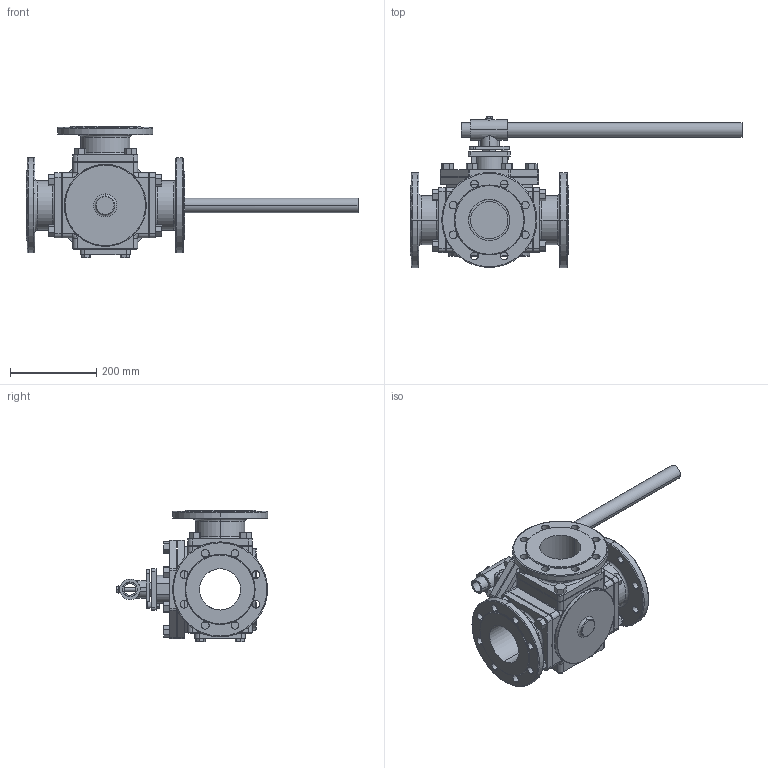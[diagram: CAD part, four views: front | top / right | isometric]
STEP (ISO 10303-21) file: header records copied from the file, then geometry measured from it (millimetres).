
FILE_DESCRIPTION (( 'STEP AP214' ), '1' );
FILE_NAME ('S316D DN100 HB.step', '2011-04-20T13:26:18', ( '' ), ( '' ), 'SwSTEP 2.0', 'SolidWorks 2011', '' );
FILE_SCHEMA (( 'AUTOMOTIVE_DESIGN' ));
Length unit declared in the file: millimetre
Products named in the file (9): S316D Handgreep Stang DN100; hex bolt gradec_din_ISO 4016 - M8 x 80 x 22-NN; S316D Handgreep T-stuk DN65-80-100; hex nut style 1 gradeab_din_Hexagon Nut ISO 4032 - M10 - D - N; socket head cap screw_din_DIN 912 M10 x 20 --- 20N; S316D Flange end DN100; S316D Blindflens DN80; S316D KK DN100 PN16; S316D DN100 HB
Assembly tree (10 placements, depth 2):
  S316D DN100 HB
    hex bolt gradec_din_ISO 4016 - M8 x 80 x 22-NN
    hex nut style 1 gradeab_din_Hexagon Nut ISO 4032 - M10 - D - N
    socket head cap screw_din_DIN 912 M10 x 20 --- 20N
    S316D Flange end DN100  x3
    S316D Blindflens DN80
    S316D KK DN100 PN16
    S316D Handgreep Stang DN100
    S316D Handgreep T-stuk DN65-80-100
Bounding box: 768.5 x 350.07 x 305 mm (x, y, z)
Volume: 9388891.8 mm3; surface area: 1100471.6 mm2
Topology: 10 solids, 10 shells, 666 faces, 1690 edges, 1074 vertices
Faces by surface type: plane 348, cylinder 220, cone 54, torus 44
Entity records: 16142 total; most frequent: CARTESIAN_POINT 3500, DIRECTION 2594, ORIENTED_EDGE 2492, EDGE_CURVE 1246, AXIS2_PLACEMENT_3D 908, VERTEX_POINT 794, VECTOR 778, LINE 778
